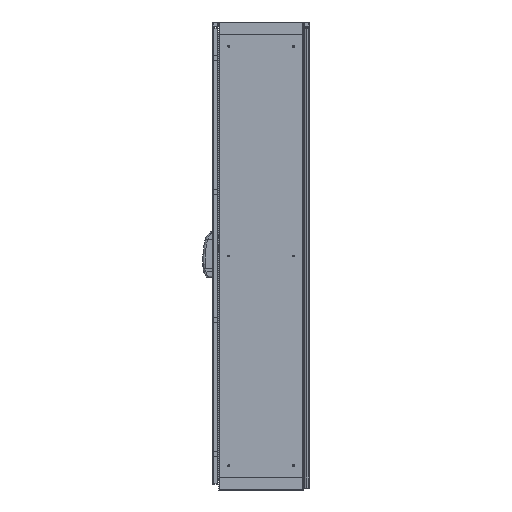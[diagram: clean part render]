
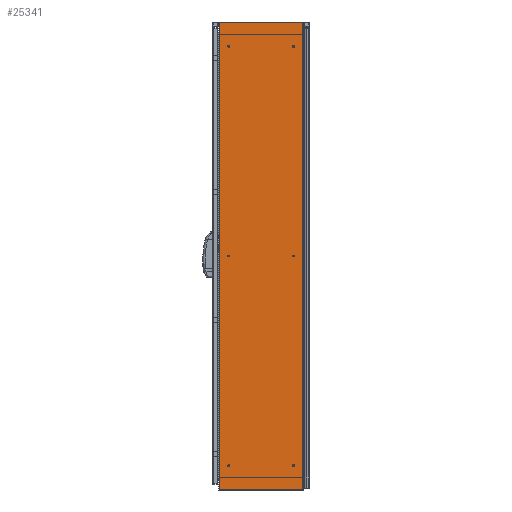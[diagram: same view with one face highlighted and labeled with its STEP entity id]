
A CAD part, left-side view. The second image highlights one B-rep face of the part: STEP entity #25341.
In plain terms, the highlighted planar face has unit normal (-1, 0, 0).
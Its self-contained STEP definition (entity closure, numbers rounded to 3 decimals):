
#169 = LINE ( 'NONE', #37570, #59596 ) ;
#3821 = CARTESIAN_POINT ( 'NONE',  ( -800., 179.43, 0. ) ) ;
#11654 = EDGE_CURVE ( 'NONE', #24914, #62959, #169, .T. ) ;
#18374 = DIRECTION ( 'NONE',  ( 0., 0., -1. ) ) ;
#18551 = DIRECTION ( 'NONE',  ( 0., -1., 0. ) ) ;
#22383 = DIRECTION ( 'NONE',  ( 1., 0., 0. ) ) ;
#23820 = DIRECTION ( 'NONE',  ( 0., -1., 0. ) ) ;
#24914 = VERTEX_POINT ( 'NONE', #110431 ) ;
#25341 = ADVANCED_FACE ( 'NONE', ( #112053 ), #121211, .F. ) ;
#29507 = LINE ( 'NONE', #48523, #105531 ) ;
#31590 = CARTESIAN_POINT ( 'NONE',  ( -800., 183.5, 2009. ) ) ;
#33501 = EDGE_CURVE ( 'NONE', #24914, #67431, #29507, .T. ) ;
#35257 = ORIENTED_EDGE ( 'NONE', *, *, #11654, .F. ) ;
#37570 = CARTESIAN_POINT ( 'NONE',  ( -800., 183.5, 2009. ) ) ;
#44231 = ORIENTED_EDGE ( 'NONE', *, *, #90154, .T. ) ;
#48523 = CARTESIAN_POINT ( 'NONE',  ( -800., 179.43, 2009. ) ) ;
#59596 = VECTOR ( 'NONE', #18551, 1000. ) ;
#61695 = DIRECTION ( 'NONE',  ( 0., 0., -1. ) ) ;
#62959 = VERTEX_POINT ( 'NONE', #68373 ) ;
#63756 = LINE ( 'NONE', #102370, #122121 ) ;
#66077 = VERTEX_POINT ( 'NONE', #119198 ) ;
#67431 = VERTEX_POINT ( 'NONE', #3821 ) ;
#67744 = ORIENTED_EDGE ( 'NONE', *, *, #33501, .T. ) ;
#68373 = CARTESIAN_POINT ( 'NONE',  ( -800., -179.43, 2009. ) ) ;
#77903 = VECTOR ( 'NONE', #98600, 1000. ) ;
#88969 = EDGE_CURVE ( 'NONE', #66077, #62959, #97304, .T. ) ;
#90154 = EDGE_CURVE ( 'NONE', #67431, #66077, #63756, .T. ) ;
#97304 = LINE ( 'NONE', #97936, #77903 ) ;
#97584 = AXIS2_PLACEMENT_3D ( 'NONE', #31590, #22383, #61695 ) ;
#97936 = CARTESIAN_POINT ( 'NONE',  ( -800., -179.43, 2009. ) ) ;
#98600 = DIRECTION ( 'NONE',  ( 0., 0., 1. ) ) ;
#102370 = CARTESIAN_POINT ( 'NONE',  ( -800., 183.5, 0. ) ) ;
#105531 = VECTOR ( 'NONE', #18374, 1000. ) ;
#107076 = ORIENTED_EDGE ( 'NONE', *, *, #88969, .T. ) ;
#110431 = CARTESIAN_POINT ( 'NONE',  ( -800., 179.43, 2009. ) ) ;
#112053 = FACE_OUTER_BOUND ( 'NONE', #124630, .T. ) ;
#119198 = CARTESIAN_POINT ( 'NONE',  ( -800., -179.43, 0. ) ) ;
#121211 = PLANE ( 'NONE',  #97584 ) ;
#122121 = VECTOR ( 'NONE', #23820, 1000. ) ;
#124630 = EDGE_LOOP ( 'NONE', ( #44231, #107076, #35257, #67744 ) ) ;
